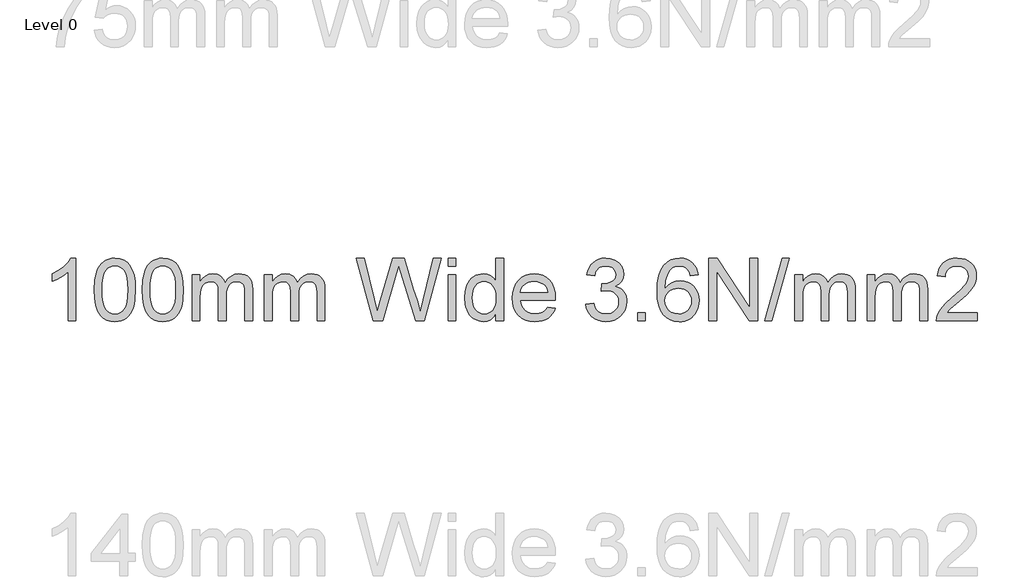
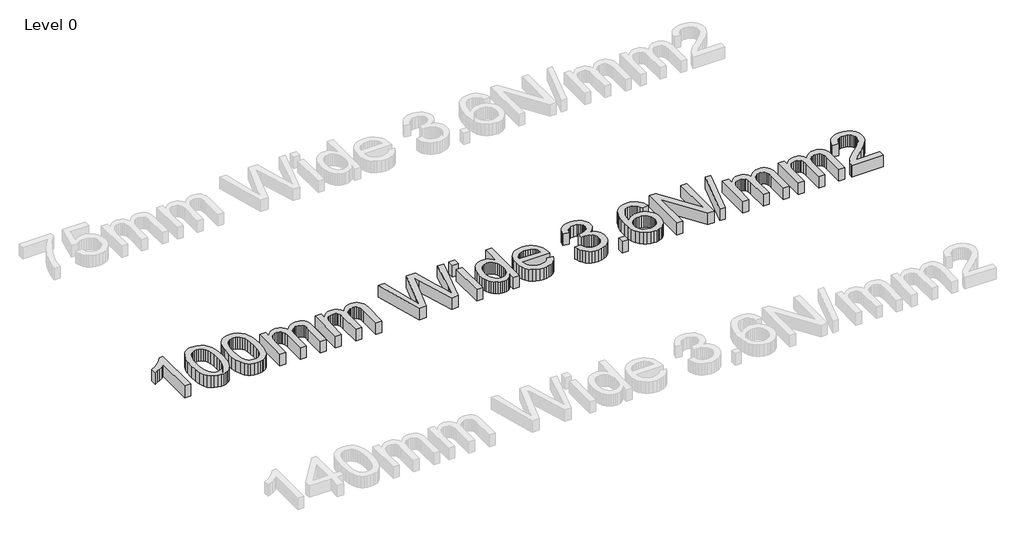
# One storey, part 2 of 4: 1 proxy.
"""IFC4 building model written with IfcOpenShell, lengths in millimetres."""

from ifc_helpers import new_model, si_unit, origin, origin_with_axes, place, context, project, spatial, polyline, outline, extrude, element, save

model = new_model("IFC4")

# Units and contexts
model_context = context("Model", 3, world=origin())
ifc_project = project(units=[si_unit("LENGTHUNIT", "METRE", prefix="MILLI")], contexts=[model_context])

# Site, building, storey
site = spatial("IfcSite", under=ifc_project)
building = spatial("IfcBuilding", under=site)
storey = spatial("IfcBuildingStorey", under=building, Name="Level 0", Elevation=0.0)

# Proxy
placement = place(None, origin())
element("IfcBuildingElementProxy", 1, Name="600mm Arial", ObjectType="600mm Arial", at=placement, inside=storey, context=model_context, shape_type="SweptSolid", body=[
    extrude(outline(polyline([(-37097.3715111, 16820.5908826), (-37171.2176649, 16820.5908826), (-37171.2176649, 17280.975498), (-37202.0469919, 17256.0416038), (-37241.169588, 17231.1437672), (-37282.2392995, 17209.3829499), (-37318.9099726, 17193.8601134), (-37318.9099726, 17263.6678057), (-37260.9111745, 17295.2182865), (-37210.6647803, 17332.7543441), (-37171.0554053, 17372.6702095), (-37144.9676649, 17411.3601134), (-37097.3715111, 17411.3601134), (-37097.3715111, 16820.5908826)])), origin_with_axes(), (0.0, 0.0, 1.0), 150.0),
    extrude(outline(polyline([(-36921.9868957, 17111.2158826), (-36916.560213, 17205.7771807), (-36909.7768596, 17245.8778417), (-36900.2801649, 17281.1918441), (-36888.1106938, 17312.0076494), (-36873.3090111, 17338.6137191), (-36855.8751169, 17361.0100533), (-36835.8090111, 17379.1966518), (-36813.0430856, 17393.2681663), (-36787.5097322, 17403.319248), (-36759.208951, 17409.349897), (-36728.1407419, 17411.3601134), (-36682.6359342, 17406.600498), (-36641.8907419, 17392.3216518), (-36607.8162226, 17369.0824691), (-36582.3234342, 17337.4418441), (-36563.0686265, 17297.6702095), (-36547.7080495, 17250.037998), (-36537.6479534, 17189.5512191), (-36534.294588, 17111.2158826), (-36539.6671842, 17017.1954499), (-36546.3829294, 16977.2300052), (-36555.7849726, 16941.9610749), (-36567.8597923, 16911.131748), (-36582.5938669, 16884.4851134), (-36599.9871962, 16862.0211711), (-36620.0397803, 16843.7399211), (-36642.8327491, 16829.5737552), (-36668.4472322, 16819.4550653), (-36696.8832298, 16813.3838514), (-36728.1407419, 16811.3601134), (-36768.8138188, 16814.8757384), (-36804.8715111, 16825.4226134), (-36836.3138188, 16843.0007384), (-36863.1407419, 16867.6101134), (-36888.8859342, 16912.0962913), (-36907.2753572, 16967.5259788), (-36918.3090111, 17033.8991759), (-36921.9868957, 17111.2158826)]), holes=[polyline([(-36848.1407419, 17111.3601134), (-36845.9772803, 17047.1638994), (-36839.4868957, 16995.2002576), (-36828.669588, 16955.4691879), (-36813.5253572, 16927.9706903), (-36795.2080495, 16909.2612552), (-36774.8715111, 16895.897373), (-36752.5157419, 16887.8790437), (-36728.1407419, 16885.2062672), (-36703.7657419, 16887.8880581), (-36681.4099726, 16895.9334307), (-36661.0734342, 16909.342385), (-36642.7561265, 16928.1149211), (-36627.6118957, 16955.6584908), (-36616.794588, 16995.3805461), (-36610.3042034, 17047.2810869), (-36608.1407419, 17111.3601134), (-36610.232088, 17173.8571086), (-36616.5061265, 17224.9057865), (-36626.9628572, 17264.506147), (-36641.6022803, 17292.6581903), (-36659.6130976, 17312.2825893), (-36680.1840111, 17326.3000172), (-36703.3150207, 17334.710474), (-36729.0061265, 17337.5139595), (-36753.2549245, 17335.0440076), (-36775.232088, 17327.6341518), (-36794.9376169, 17315.2843922), (-36812.3715111, 17297.9947288), (-36828.0205495, 17267.3456903), (-36839.1984342, 17226.0235749), (-36845.9051649, 17174.0283826), (-36848.1407419, 17111.3601134)])]), origin_with_axes(), (0.0, 0.0, 1.0), 150.0),
    extrude(outline(polyline([(-36469.6792034, 17111.2158826), (-36464.2525207, 17205.7771807), (-36457.4691673, 17245.8778417), (-36447.9724726, 17281.1918441), (-36435.8030015, 17312.0076494), (-36421.0013188, 17338.6137191), (-36403.5674245, 17361.0100533), (-36383.5013188, 17379.1966518), (-36360.7353933, 17393.2681663), (-36335.2020399, 17403.319248), (-36306.9012587, 17409.349897), (-36275.8330495, 17411.3601134), (-36230.3282419, 17406.600498), (-36189.5830495, 17392.3216518), (-36155.5085303, 17369.0824691), (-36130.0157419, 17337.4418441), (-36110.7609342, 17297.6702095), (-36095.4003572, 17250.037998), (-36085.3402611, 17189.5512191), (-36081.9868957, 17111.2158826), (-36087.3594919, 17017.1954499), (-36094.075237, 16977.2300052), (-36103.4772803, 16941.9610749), (-36115.5521, 16911.131748), (-36130.2861745, 16884.4851134), (-36147.6795039, 16862.0211711), (-36167.732088, 16843.7399211), (-36190.5250568, 16829.5737552), (-36216.1395399, 16819.4550653), (-36244.5755375, 16813.3838514), (-36275.8330495, 16811.3601134), (-36316.5061265, 16814.8757384), (-36352.5638188, 16825.4226134), (-36384.0061265, 16843.0007384), (-36410.8330495, 16867.6101134), (-36436.5782419, 16912.0962913), (-36454.9676649, 16967.5259788), (-36466.0013188, 17033.8991759), (-36469.6792034, 17111.2158826)]), holes=[polyline([(-36395.8330495, 17111.3601134), (-36393.669588, 17047.1638994), (-36387.1792034, 16995.2002576), (-36376.3618957, 16955.4691879), (-36361.2176649, 16927.9706903), (-36342.9003572, 16909.2612552), (-36322.5638188, 16895.897373), (-36300.2080495, 16887.8790437), (-36275.8330495, 16885.2062672), (-36251.4580495, 16887.8880581), (-36229.1022803, 16895.9334307), (-36208.7657419, 16909.342385), (-36190.4484342, 16928.1149211), (-36175.3042034, 16955.6584908), (-36164.4868957, 16995.3805461), (-36157.9965111, 17047.2810869), (-36155.8330495, 17111.3601134), (-36157.9243957, 17173.8571086), (-36164.1984342, 17224.9057865), (-36174.6551649, 17264.506147), (-36189.294588, 17292.6581903), (-36207.3054053, 17312.2825893), (-36227.8763188, 17326.3000172), (-36251.0073284, 17334.710474), (-36276.6984342, 17337.5139595), (-36300.9472322, 17335.0440076), (-36322.9243957, 17327.6341518), (-36342.6299245, 17315.2843922), (-36360.0638188, 17297.9947288), (-36375.7128572, 17267.3456903), (-36386.8907419, 17226.0235749), (-36393.5974726, 17174.0283826), (-36395.8330495, 17111.3601134)])]), origin_with_axes(), (0.0, 0.0, 1.0), 150.0),
    extrude(outline(polyline([(-35998.9099726, 16820.5908826), (-35998.9099726, 17254.4370365), (-35925.0638188, 17254.4370365), (-35925.0638188, 17183.0428057), (-35902.8522803, 17215.8372768), (-35874.294588, 17241.5283826), (-35840.3642995, 17258.1329499), (-35802.0349726, 17263.6678057), (-35760.9652611, 17258.0247768), (-35743.4862947, 17250.9709908), (-35728.044588, 17241.0956903), (-35703.4532419, 17213.9983345), (-35687.3715111, 17177.850498), (-35660.4544438, 17215.3955701), (-35629.7513188, 17242.2134788), (-35595.2621361, 17258.304224), (-35556.9868957, 17263.6678057), (-35527.4240952, 17261.436736), (-35501.4760784, 17254.7435268), (-35479.1428452, 17243.5881783), (-35460.4243957, 17227.9706903), (-35445.6272202, 17207.7107744), (-35435.0578092, 17182.6281422), (-35428.7161625, 17152.7227937), (-35426.6022803, 17117.9947288), (-35426.6022803, 16820.5908826), (-35500.4484342, 16820.5908826), (-35500.4484342, 17086.2639595), (-35502.1611745, 17123.0968922), (-35507.2993957, 17147.9226134), (-35516.9267995, 17164.9238153), (-35532.107088, 17178.2831903), (-35551.6323284, 17186.9370365), (-35574.294588, 17189.8216518), (-35595.2215712, 17187.9736951), (-35614.3005976, 17182.4298249), (-35631.5316673, 17173.1900413), (-35646.9147803, 17160.2543441), (-35659.5665231, 17143.2441278), (-35668.6034822, 17121.7807865), (-35674.0256577, 17095.8643201), (-35675.8330495, 17065.4947288), (-35675.8330495, 16820.5908826), (-35749.6792034, 16820.5908826), (-35749.6792034, 17094.4851134), (-35753.9520399, 17136.2399211), (-35766.7705495, 17166.0235749), (-35776.6819077, 17176.4352336), (-35789.3246361, 17183.8721326), (-35804.6987346, 17188.334272), (-35822.8042034, 17189.8216518), (-35851.2537226, 17185.8553057), (-35877.4676649, 17173.9562672), (-35899.1022803, 17154.412998), (-35913.8138188, 17127.5139595), (-35922.2513188, 17090.194248), (-35925.0638188, 17039.3889595), (-35925.0638188, 16820.5908826), (-35998.9099726, 16820.5908826)])), origin_with_axes(), (0.0, 0.0, 1.0), 150.0),
    extrude(outline(polyline([(-35315.8330495, 16820.5908826), (-35315.8330495, 17254.4370365), (-35241.9868957, 17254.4370365), (-35241.9868957, 17183.0428057), (-35219.7753572, 17215.8372768), (-35191.2176649, 17241.5283826), (-35157.2873765, 17258.1329499), (-35118.9580495, 17263.6678057), (-35077.888338, 17258.0247768), (-35060.4093717, 17250.9709908), (-35044.9676649, 17241.0956903), (-35020.3763188, 17213.9983345), (-35004.294588, 17177.850498), (-34977.3775207, 17215.3955701), (-34946.6743957, 17242.2134788), (-34912.185213, 17258.304224), (-34873.9099726, 17263.6678057), (-34844.3471721, 17261.436736), (-34818.3991553, 17254.7435268), (-34796.0659221, 17243.5881783), (-34777.3474726, 17227.9706903), (-34762.5502971, 17207.7107744), (-34751.9808861, 17182.6281422), (-34745.6392395, 17152.7227937), (-34743.5253572, 17117.9947288), (-34743.5253572, 16820.5908826), (-34817.3715111, 16820.5908826), (-34817.3715111, 17086.2639595), (-34819.0842515, 17123.0968922), (-34824.2224726, 17147.9226134), (-34833.8498765, 17164.9238153), (-34849.0301649, 17178.2831903), (-34868.5554053, 17186.9370365), (-34891.2176649, 17189.8216518), (-34912.1446481, 17187.9736951), (-34931.2236745, 17182.4298249), (-34948.4547443, 17173.1900413), (-34963.8378572, 17160.2543441), (-34976.4896, 17143.2441278), (-34985.5265592, 17121.7807865), (-34990.9487346, 17095.8643201), (-34992.7561265, 17065.4947288), (-34992.7561265, 16820.5908826), (-35066.6022803, 16820.5908826), (-35066.6022803, 17094.4851134), (-35070.8751169, 17136.2399211), (-35083.6936265, 17166.0235749), (-35093.6049846, 17176.4352336), (-35106.247713, 17183.8721326), (-35121.6218116, 17188.334272), (-35139.7272803, 17189.8216518), (-35168.1767995, 17185.8553057), (-35194.3907419, 17173.9562672), (-35216.0253572, 17154.412998), (-35230.7368957, 17127.5139595), (-35239.1743957, 17090.194248), (-35241.9868957, 17039.3889595), (-35241.9868957, 16820.5908826), (-35315.8330495, 16820.5908826)])), origin_with_axes(), (0.0, 0.0, 1.0), 150.0),
    extrude(outline(polyline([(-34287.0349726, 16820.5908826), (-34448.1407419, 17411.3601134), (-34371.9868957, 17411.3601134), (-34278.5253572, 17023.0908826), (-34249.6792034, 16903.2351134), (-34218.8138188, 17009.2447288), (-34101.6984342, 17411.3601134), (-33991.9388188, 17411.3601134), (-33906.8426649, 17119.8697288), (-33870.388338, 17011.6966518), (-33843.5253572, 16903.2351134), (-33815.544588, 17019.6293441), (-33721.2176649, 17411.3601134), (-33645.0638188, 17411.3601134), (-33806.3138188, 16820.5908826), (-33885.2080495, 16820.5908826), (-34026.8426649, 17276.3601134), (-34046.6022803, 17339.9658826), (-34068.8138188, 17263.3793441), (-34197.9003572, 16820.5908826), (-34287.0349726, 16820.5908826)])), origin_with_axes(), (0.0, 0.0, 1.0), 150.0),
    extrude(outline(polyline([(-33580.4484342, 16820.5908826), (-33580.4484342, 17254.4370365), (-33506.6022803, 17254.4370365), (-33506.6022803, 16820.5908826), (-33580.4484342, 16820.5908826)])), origin_with_axes(), (0.0, 0.0, 1.0), 150.0),
    extrude(outline(polyline([(-33580.4484342, 17337.5139595), (-33580.4484342, 17411.3601134), (-33506.6022803, 17411.3601134), (-33506.6022803, 17337.5139595), (-33580.4484342, 17337.5139595)])), origin_with_axes(), (0.0, 0.0, 1.0), 150.0),
    extrude(outline(polyline([(-33128.1407419, 16820.5908826), (-33128.1407419, 16890.2543441), (-33150.2350928, 16855.7381182), (-33176.9989149, 16831.0836711), (-33208.4322082, 16816.2910028), (-33244.5349726, 16811.3601134), (-33268.9099726, 16813.1449691), (-33292.2753572, 16818.4995365), (-33314.6311265, 16827.4238153), (-33335.9772803, 16839.9178057), (-33355.6467515, 16855.6074091), (-33372.9724726, 16874.1185268), (-33387.9544438, 16895.4511591), (-33400.5926649, 16919.6053057), (-33410.6257178, 16946.1212312), (-33417.7921842, 16974.5391999), (-33423.5253572, 17037.0812672), (-33418.2429053, 17098.8480941), (-33402.3955495, 17154.6293441), (-33390.5145399, 17179.4821086), (-33376.0013188, 17201.2519403), (-33358.8558861, 17219.9388393), (-33339.0782419, 17235.5428057), (-33317.3670039, 17247.8474932), (-33294.4207899, 17256.6365557), (-33270.2396, 17261.9099932), (-33244.8234342, 17263.6678057), (-33208.6936265, 17258.6377576), (-33176.7465111, 17243.5476134), (-33149.6671842, 17220.4166038), (-33128.1407419, 17191.2639595), (-33128.1407419, 17411.3601134), (-33054.294588, 17411.3601134), (-33054.294588, 16820.5908826), (-33128.1407419, 16820.5908826)]), holes=[polyline([(-33349.6792034, 17037.3697288), (-33347.5968717, 17001.5599331), (-33341.3498765, 16970.5728538), (-33330.9382178, 16944.4084908), (-33316.3618957, 16923.0668441), (-33298.9550447, 16906.5028417), (-33280.0517995, 16894.6714115), (-33259.6521601, 16887.5725533), (-33237.7561265, 16885.2062672), (-33215.756427, 16887.4643802), (-33195.4784822, 16894.2387191), (-33176.9222923, 16905.5292841), (-33160.0878572, 16921.3360749), (-33146.1109943, 16941.7852937), (-33136.1275207, 16967.0031422), (-33130.1374366, 16996.9896206), (-33128.1407419, 17031.7447288), (-33130.1734943, 17069.8486951), (-33136.2717515, 17102.5259788), (-33146.4355135, 17129.7765797), (-33160.6647803, 17151.600498), (-33177.8688068, 17168.3222528), (-33196.9568476, 17180.2663634), (-33217.9289029, 17187.4328297), (-33240.7849726, 17189.8216518), (-33263.1136986, 17187.5274812), (-33283.513338, 17180.6449691), (-33301.9838909, 17169.1741158), (-33318.5253572, 17153.1149211), (-33332.1551649, 17132.1158225), (-33341.8907419, 17105.8252576), (-33347.732088, 17074.2432264), (-33349.6792034, 17037.3697288)])]), origin_with_axes(), (0.0, 0.0, 1.0), 150.0),
    extrude(outline(polyline([(-32639.7753572, 16949.8216518), (-32567.3715111, 16940.5908826), (-32578.4727731, 16911.5914836), (-32593.4592515, 16886.0355941), (-32612.3309462, 16863.9232143), (-32635.0878572, 16845.2543441), (-32661.4956096, 16830.4256182), (-32691.3198284, 16819.8336711), (-32724.5605135, 16813.4785028), (-32761.2176649, 16811.3601134), (-32807.0379774, 16815.0154619), (-32847.8642995, 16825.9815076), (-32883.6966313, 16844.2582504), (-32914.5349726, 16869.8456903), (-32939.3336505, 16902.0316879), (-32957.0469919, 16940.1041038), (-32967.6749967, 16984.0629379), (-32971.2176649, 17033.9081903), (-32967.638939, 17085.443647), (-32956.9027611, 17130.8673249), (-32939.0091313, 17170.179224), (-32913.9580495, 17203.3793441), (-32883.200838, 17229.7555461), (-32848.1888188, 17248.5956903), (-32808.9219919, 17259.8997768), (-32765.4003572, 17263.6678057), (-32723.2804654, 17259.9087913), (-32685.1900207, 17248.631748), (-32651.1290231, 17229.8366759), (-32621.0974726, 17203.5235749), (-32596.5827491, 17170.3955701), (-32579.0722322, 17131.1557865), (-32568.5659221, 17085.804224), (-32565.0638188, 17034.3408826), (-32565.4965111, 17014.4370365), (-32897.3715111, 17014.4370365), (-32893.0941673, 16984.9688874), (-32884.5890592, 16959.1605941), (-32871.8561866, 16937.0121566), (-32854.8955495, 16918.5235749), (-32834.6446481, 16903.9472528), (-32812.0409822, 16893.5355941), (-32787.084552, 16887.288599), (-32759.7753572, 16885.2062672), (-32720.4724726, 16889.0644403), (-32687.3715111, 16900.6389595), (-32660.4724726, 16920.6509788), (-32639.7753572, 16949.8216518)]), holes=[polyline([(-32897.3715111, 17088.2831903), (-32638.9099726, 17088.2831903), (-32648.8979534, 17127.2976134), (-32657.4886986, 17142.6401615), (-32668.4772803, 17155.2062672), (-32688.6155015, 17170.350498), (-32711.5301649, 17181.1678057), (-32737.2212707, 17187.6581903), (-32765.6888188, 17189.8216518), (-32791.6548645, 17188.0953898), (-32815.466463, 17182.9166038), (-32837.1236145, 17174.2852937), (-32856.6263188, 17162.2014595), (-32872.9920039, 17147.2239956), (-32885.2380976, 17129.9117961), (-32893.3646, 17110.264861), (-32897.3715111, 17088.2831903)])]), origin_with_axes(), (0.0, 0.0, 1.0), 150.0),
    extrude(outline(polyline([(-32278.9099726, 16977.5139595), (-32205.0638188, 16986.7447288), (-32188.5313669, 16940.3384788), (-32177.3850327, 16922.787397), (-32164.3186265, 16909.0043441), (-32149.0346721, 16898.5926855), (-32131.2356938, 16891.1557865), (-32110.9216914, 16886.693647), (-32088.0926649, 16885.2062672), (-32061.3378572, 16887.2525413), (-32037.4676649, 16893.3913634), (-32016.482088, 16903.6227336), (-31998.3811265, 16917.9466518), (-31983.8048044, 16935.2904018), (-31973.3931457, 16954.5812672), (-31967.1461505, 16975.819248), (-31965.0638188, 16999.0043441), (-31967.1281217, 17021.0851735), (-31973.3210303, 17041.1738153), (-31983.6425447, 17059.2702696), (-31998.0926649, 17075.3745365), (-32015.7248765, 17088.5941879), (-32035.5926649, 17098.0367961), (-32057.6960303, 17103.702361), (-32082.0349726, 17105.5908826), (-32105.3642995, 17103.5716518), (-32133.8138188, 17097.5139595), (-32125.5926649, 17171.3601134), (-32113.7657419, 17170.4947288), (-32069.5229534, 17175.7952095), (-32029.9676649, 17191.6966518), (-32013.6876169, 17203.7218922), (-32002.0590111, 17218.5956903), (-31995.0818476, 17236.3180461), (-31992.7561265, 17256.8889595), (-31994.4418236, 17273.5881783), (-31999.4989149, 17288.7819884), (-32007.9274005, 17302.4703898), (-32019.7272803, 17314.6533826), (-32034.1864149, 17324.654885), (-32050.5926649, 17331.7988153), (-32089.2465111, 17337.5139595), (-32127.9724726, 17331.7447288), (-32144.685213, 17324.5331903), (-32159.6311265, 17314.4370365), (-32172.4406217, 17301.4562672), (-32182.7441072, 17285.5908826), (-32190.5415832, 17266.8408826), (-32195.8330495, 17245.2062672), (-32269.6792034, 17254.4370365), (-32260.9261986, 17289.6924451), (-32247.9364149, 17320.7471326), (-32230.7098524, 17347.601099), (-32209.2465111, 17370.2543441), (-32184.2224726, 17388.2381182), (-32156.3138188, 17401.0836711), (-32125.5205495, 17408.7910028), (-32091.8426649, 17411.3601134), (-32045.4183861, 17406.2940076), (-32002.7801649, 17391.0956903), (-31966.8306457, 17367.1173249), (-31940.4724726, 17335.7110749), (-31924.3005976, 17299.5271807), (-31918.9099726, 17261.2158826), (-31924.0301649, 17225.5187672), (-31939.3907419, 17193.1389595), (-31964.7753572, 17165.5548249), (-31999.9676649, 17144.2447288), (-31975.3582899, 17136.5464115), (-31953.7417034, 17125.5668441), (-31935.1179053, 17111.3060268), (-31919.4868957, 17093.7639595), (-31907.1191072, 17073.3733345), (-31898.2849726, 17050.5668441), (-31892.9844919, 17025.3444884), (-31891.2176649, 16997.7062672), (-31894.7513188, 16960.2423249), (-31905.3522803, 16925.7351134), (-31923.0205495, 16894.1846326), (-31947.7561265, 16865.5908826), (-31977.8913428, 16841.8649211), (-32011.7585303, 16824.9178057), (-32049.357689, 16814.7495365), (-32090.6888188, 16811.3601134), (-32128.044588, 16814.2537432), (-32162.0830495, 16822.9346326), (-32192.8042034, 16837.4027816), (-32220.2080495, 16857.6581903), (-32243.185814, 16882.5109547), (-32260.6287226, 16910.7711711), (-32272.5367755, 16942.4388393), (-32278.9099726, 16977.5139595)])), origin_with_axes(), (0.0, 0.0, 1.0), 150.0),
    extrude(outline(polyline([(-31789.6792034, 16820.5908826), (-31789.6792034, 16894.4370365), (-31715.8330495, 16894.4370365), (-31715.8330495, 16820.5908826), (-31789.6792034, 16820.5908826)])), origin_with_axes(), (0.0, 0.0, 1.0), 150.0),
    extrude(outline(polyline([(-31217.3715111, 17254.4370365), (-31291.2176649, 17245.2062672), (-31303.1167034, 17281.8048249), (-31319.1984342, 17306.7928057), (-31335.0728332, 17320.2333105), (-31352.6960303, 17329.8336711), (-31372.0680255, 17335.5938874), (-31393.1888188, 17337.5139595), (-31427.5157419, 17333.0428057), (-31459.8234342, 17319.6293441), (-31487.5698284, 17291.3781422), (-31510.232088, 17252.4899211), (-31519.0887587, 17227.686736), (-31525.5385784, 17197.4839115), (-31531.2176649, 17120.8793441), (-31501.5962707, 17155.4406422), (-31466.0974726, 17179.7976134), (-31426.7044438, 17194.2387191), (-31385.4003572, 17199.0524211), (-31349.919588, 17195.7621566), (-31317.1792034, 17185.8913634), (-31287.1792034, 17169.4400413), (-31259.919588, 17146.4081903), (-31237.2663428, 17118.1660028), (-31221.0854534, 17086.0836711), (-31211.3769197, 17050.1611951), (-31208.1407419, 17010.3985749), (-31214.2344919, 16957.5199691), (-31221.8516794, 16932.5274812), (-31232.5157419, 16908.4995365), (-31245.8480736, 16886.3330701), (-31261.4700688, 16866.9250172), (-31279.3817274, 16850.2753778), (-31299.5830495, 16836.3841518), (-31321.6413428, 16825.436135), (-31345.1239149, 16817.616123), (-31370.0307659, 16812.9241158), (-31396.3618957, 16811.3601134), (-31440.3838308, 16815.506748), (-31480.1419438, 16827.9466518), (-31515.6362346, 16848.6798249), (-31546.8667034, 16877.7062672), (-31572.3279414, 16916.2519403), (-31590.5145399, 16965.5428057), (-31601.4264991, 17025.5788634), (-31605.0638188, 17096.3601134), (-31601.0253572, 17175.7140797), (-31588.9099726, 17243.4394403), (-31568.7176649, 17299.5361951), (-31555.5926649, 17323.2238453), (-31540.4484342, 17344.0043441), (-31509.8084101, 17373.4724932), (-31474.2825688, 17394.5211711), (-31433.8709101, 17407.1503778), (-31388.5734342, 17411.3601134), (-31354.5620159, 17408.7549451), (-31323.7777611, 17400.9394403), (-31296.2206697, 17387.913599), (-31271.8907419, 17369.6774211), (-31251.4460303, 17346.8438874), (-31235.544588, 17320.0259788), (-31224.1864149, 17289.2236951), (-31217.3715111, 17254.4370365)]), holes=[polyline([(-31531.2176649, 17011.5524211), (-31526.9448284, 16978.8300653), (-31514.1263188, 16947.5860749), (-31494.2224726, 16920.7230941), (-31468.6936265, 16901.1437672), (-31437.8823284, 16889.1906422), (-31402.1311265, 16885.2062672), (-31376.4625568, 16887.2705701), (-31353.3991553, 16893.4634788), (-31332.9409221, 16903.7849932), (-31315.0878572, 16918.2351134), (-31300.6061866, 16936.2279018), (-31290.2621361, 16957.1774211), (-31284.0557058, 16981.0836711), (-31281.9868957, 17007.9466518), (-31284.0286625, 17033.7594523), (-31290.153963, 17056.678623), (-31300.3627971, 17076.7041639), (-31314.6551649, 17093.8360749), (-31332.5623164, 17107.5605341), (-31353.6155015, 17117.3637191), (-31377.8147202, 17123.2456302), (-31405.1599726, 17125.2062672), (-31430.4859943, 17123.2456302), (-31453.8198284, 17117.3637191), (-31475.161475, 17107.5605341), (-31494.5109342, 17093.8360749), (-31510.5701289, 17076.9295244), (-31522.0409822, 17057.5800653), (-31528.9234943, 17035.7876975), (-31531.2176649, 17011.5524211)])]), origin_with_axes(), (0.0, 0.0, 1.0), 150.0),
    extrude(outline(polyline([(-31115.8330495, 16820.5908826), (-31115.8330495, 17411.3601134), (-31036.794588, 17411.3601134), (-30728.1407419, 16943.3312672), (-30728.1407419, 17411.3601134), (-30654.294588, 17411.3601134), (-30654.294588, 16820.5908826), (-30733.3330495, 16820.5908826), (-31041.9868957, 17288.7639595), (-31041.9868957, 16820.5908826), (-31115.8330495, 16820.5908826)])), origin_with_axes(), (0.0, 0.0, 1.0), 150.0),
    extrude(outline(polyline([(-30589.6792034, 16820.5908826), (-30423.5253572, 17411.3601134), (-30356.8907419, 17411.3601134), (-30523.044588, 16820.5908826), (-30589.6792034, 16820.5908826)])), origin_with_axes(), (0.0, 0.0, 1.0), 150.0),
    extrude(outline(polyline([(-30303.5253572, 16820.5908826), (-30303.5253572, 17254.4370365), (-30229.6792034, 17254.4370365), (-30229.6792034, 17183.0428057), (-30207.4676649, 17215.8372768), (-30178.9099726, 17241.5283826), (-30144.9796842, 17258.1329499), (-30106.6503572, 17263.6678057), (-30065.5806457, 17258.0247768), (-30048.1016794, 17250.9709908), (-30032.6599726, 17241.0956903), (-30008.0686265, 17213.9983345), (-29991.9868957, 17177.850498), (-29965.0698284, 17215.3955701), (-29934.3667034, 17242.2134788), (-29899.8775207, 17258.304224), (-29861.6022803, 17263.6678057), (-29832.0394798, 17261.436736), (-29806.091463, 17254.7435268), (-29783.7582298, 17243.5881783), (-29765.0397803, 17227.9706903), (-29750.2426048, 17207.7107744), (-29739.6731938, 17182.6281422), (-29733.3315471, 17152.7227937), (-29731.2176649, 17117.9947288), (-29731.2176649, 16820.5908826), (-29805.0638188, 16820.5908826), (-29805.0638188, 17086.2639595), (-29806.7765592, 17123.0968922), (-29811.9147803, 17147.9226134), (-29821.5421842, 17164.9238153), (-29836.7224726, 17178.2831903), (-29856.247713, 17186.9370365), (-29878.9099726, 17189.8216518), (-29899.8369558, 17187.9736951), (-29918.9159822, 17182.4298249), (-29936.147052, 17173.1900413), (-29951.5301649, 17160.2543441), (-29964.1819077, 17143.2441278), (-29973.2188669, 17121.7807865), (-29978.6410423, 17095.8643201), (-29980.4484342, 17065.4947288), (-29980.4484342, 16820.5908826), (-30054.294588, 16820.5908826), (-30054.294588, 17094.4851134), (-30058.5674245, 17136.2399211), (-30071.3859342, 17166.0235749), (-30081.2972923, 17176.4352336), (-30093.9400207, 17183.8721326), (-30109.3141193, 17188.334272), (-30127.419588, 17189.8216518), (-30155.8691072, 17185.8553057), (-30182.0830495, 17173.9562672), (-30203.7176649, 17154.412998), (-30218.4292034, 17127.5139595), (-30226.8667034, 17090.194248), (-30229.6792034, 17039.3889595), (-30229.6792034, 16820.5908826), (-30303.5253572, 16820.5908826)])), origin_with_axes(), (0.0, 0.0, 1.0), 150.0),
    extrude(outline(polyline([(-29620.4484342, 16820.5908826), (-29620.4484342, 17254.4370365), (-29546.6022803, 17254.4370365), (-29546.6022803, 17183.0428057), (-29524.3907419, 17215.8372768), (-29495.8330495, 17241.5283826), (-29461.9027611, 17258.1329499), (-29423.5734342, 17263.6678057), (-29382.5037226, 17258.0247768), (-29365.0247563, 17250.9709908), (-29349.5830495, 17241.0956903), (-29324.9917034, 17213.9983345), (-29308.9099726, 17177.850498), (-29281.9929053, 17215.3955701), (-29251.2897803, 17242.2134788), (-29216.8005976, 17258.304224), (-29178.5253572, 17263.6678057), (-29148.9625568, 17261.436736), (-29123.0145399, 17254.7435268), (-29100.6813068, 17243.5881783), (-29081.9628572, 17227.9706903), (-29067.1656818, 17207.7107744), (-29056.5962707, 17182.6281422), (-29050.2546241, 17152.7227937), (-29048.1407419, 17117.9947288), (-29048.1407419, 16820.5908826), (-29121.9868957, 16820.5908826), (-29121.9868957, 17086.2639595), (-29123.6996361, 17123.0968922), (-29128.8378572, 17147.9226134), (-29138.4652611, 17164.9238153), (-29153.6455495, 17178.2831903), (-29173.1707899, 17186.9370365), (-29195.8330495, 17189.8216518), (-29216.7600327, 17187.9736951), (-29235.8390592, 17182.4298249), (-29253.0701289, 17173.1900413), (-29268.4532419, 17160.2543441), (-29281.1049846, 17143.2441278), (-29290.1419438, 17121.7807865), (-29295.5641193, 17095.8643201), (-29297.3715111, 17065.4947288), (-29297.3715111, 16820.5908826), (-29371.2176649, 16820.5908826), (-29371.2176649, 17094.4851134), (-29375.4905015, 17136.2399211), (-29388.3090111, 17166.0235749), (-29398.2203693, 17176.4352336), (-29410.8630976, 17183.8721326), (-29426.2371962, 17188.334272), (-29444.3426649, 17189.8216518), (-29472.7921842, 17185.8553057), (-29499.0061265, 17173.9562672), (-29520.6407419, 17154.412998), (-29535.3522803, 17127.5139595), (-29543.7897803, 17090.194248), (-29546.6022803, 17039.3889595), (-29546.6022803, 16820.5908826), (-29620.4484342, 16820.5908826)])), origin_with_axes(), (0.0, 0.0, 1.0), 150.0),
    extrude(outline(polyline([(-28577.3715111, 16894.4370365), (-28577.3715111, 16820.5908826), (-28965.0638188, 16820.5908826), (-28963.4412226, 16846.5884788), (-28957.1311265, 16871.5043441), (-28938.9219919, 16911.2940076), (-28912.2753572, 16949.8937672), (-28873.7296842, 16990.2964115), (-28819.8234342, 17035.4947288), (-28740.1359342, 17106.2759788), (-28692.3234342, 17158.5235749), (-28678.3781217, 17179.8697288), (-28668.4171842, 17200.9274211), (-28662.4406217, 17221.6966518), (-28660.4484342, 17242.1774211), (-28662.3279414, 17261.4457504), (-28667.966463, 17279.1545845), (-28677.3639991, 17295.3039235), (-28690.5205495, 17309.8937672), (-28706.7059462, 17321.9776014), (-28725.1900207, 17330.6089115), (-28745.9727731, 17335.7876975), (-28769.0542034, 17337.5139595), (-28793.3706096, 17335.8282624), (-28815.1179053, 17330.7711711), (-28834.2960904, 17322.3426855), (-28850.9051649, 17310.5428057), (-28864.3411625, 17295.7681663), (-28874.0001169, 17278.4154018), (-28879.8820279, 17258.4845124), (-28881.9868957, 17235.975498), (-28955.8330495, 17245.2062672), (-28949.4823885, 17283.3282624), (-28937.9304053, 17316.6365557), (-28921.1771, 17345.131147), (-28899.2224726, 17368.8120365), (-28872.5713308, 17387.4268201), (-28841.7284822, 17400.7230941), (-28806.693927, 17408.7008586), (-28767.4676649, 17411.3601134), (-28727.8898404, 17408.4033826), (-28692.6659822, 17399.5331903), (-28661.7960904, 17384.7495365), (-28635.2801649, 17364.0524211), (-28613.9835904, 17338.9742961), (-28598.7717515, 17311.0476134), (-28589.6446481, 17280.272373), (-28586.6022803, 17246.6485749), (-28589.8835303, 17211.3300653), (-28599.7272803, 17176.6245365), (-28617.1972322, 17141.3240557), (-28643.357088, 17104.2206903), (-28685.0578092, 17059.9238153), (-28749.1503572, 17003.0428057), (-28834.1022803, 16932.0091518), (-28867.419588, 16894.4370365), (-28577.3715111, 16894.4370365)])), origin_with_axes(), (0.0, 0.0, 1.0), 150.0),
])

save(model, "model.ifc")
